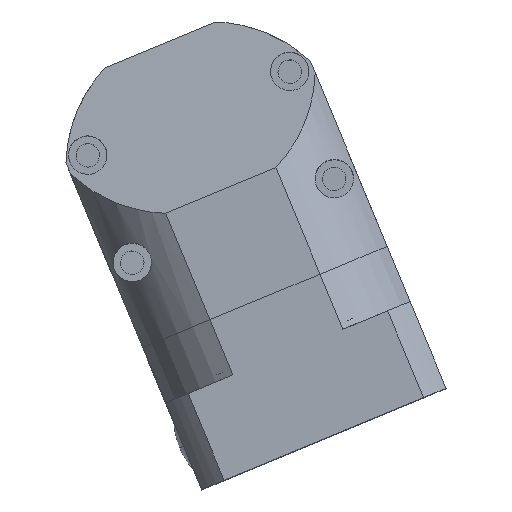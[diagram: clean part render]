
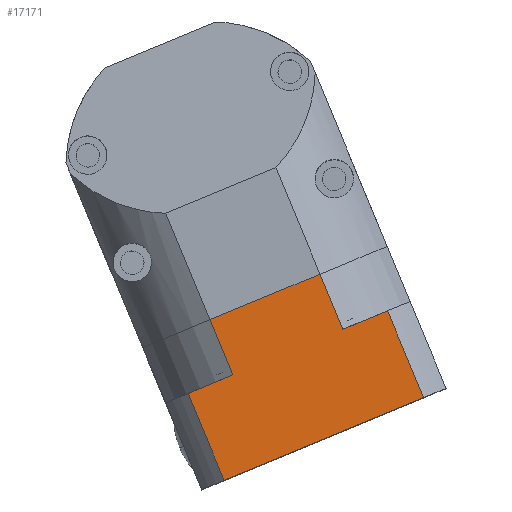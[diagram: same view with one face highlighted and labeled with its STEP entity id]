
A CAD part, top view. The second image highlights one B-rep face of the part: STEP entity #17171.
In plain terms, the highlighted planar face has unit normal (0, 0, 1).
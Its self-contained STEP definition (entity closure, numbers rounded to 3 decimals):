
#14 = VECTOR ( 'NONE', #8898, 1000. ) ;
#180 = CARTESIAN_POINT ( 'NONE',  ( 2.978, -32.443, 125.869 ) ) ;
#227 = VERTEX_POINT ( 'NONE', #14948 ) ;
#242 = ORIENTED_EDGE ( 'NONE', *, *, #10505, .T. ) ;
#454 = CARTESIAN_POINT ( 'NONE',  ( 21.857, -48.431, 125.869 ) ) ;
#948 = VECTOR ( 'NONE', #9926, 1000. ) ;
#951 = ORIENTED_EDGE ( 'NONE', *, *, #9221, .F. ) ;
#1019 = LINE ( 'NONE', #8143, #8429 ) ;
#2317 = FACE_OUTER_BOUND ( 'NONE', #11632, .T. ) ;
#2321 = CARTESIAN_POINT ( 'NONE',  ( -2.384, -19.51, 125.869 ) ) ;
#2886 = ORIENTED_EDGE ( 'NONE', *, *, #9799, .F. ) ;
#3190 = CARTESIAN_POINT ( 'NONE',  ( -22.82, -43.141, 125.869 ) ) ;
#3366 = AXIS2_PLACEMENT_3D ( 'NONE', #12265, #9646, #11038 ) ;
#4193 = CARTESIAN_POINT ( 'NONE',  ( 21.857, -48.431, 125.869 ) ) ;
#4334 = CARTESIAN_POINT ( 'NONE',  ( 13.43, -28.109, 125.869 ) ) ;
#4379 = LINE ( 'NONE', #180, #16528 ) ;
#4721 = ORIENTED_EDGE ( 'NONE', *, *, #6105, .T. ) ;
#4961 = DIRECTION ( 'NONE',  ( -0.924, -0.383, 0. ) ) ;
#5229 = DIRECTION ( 'NONE',  ( -0.924, -0.383, 0. ) ) ;
#5679 = CARTESIAN_POINT ( 'NONE',  ( 21.857, -48.431, 125.869 ) ) ;
#6105 = EDGE_CURVE ( 'NONE', #11438, #6922, #1019, .T. ) ;
#6298 = VECTOR ( 'NONE', #12150, 1000. ) ;
#6922 = VERTEX_POINT ( 'NONE', #12974 ) ;
#7059 = CARTESIAN_POINT ( 'NONE',  ( -24.844, -67.797, 125.869 ) ) ;
#7704 = EDGE_CURVE ( 'NONE', #8425, #15925, #17037, .T. ) ;
#7984 = VERTEX_POINT ( 'NONE', #7059 ) ;
#8028 = PLANE ( 'NONE',  #3366 ) ;
#8143 = CARTESIAN_POINT ( 'NONE',  ( 13.43, -28.109, 125.869 ) ) ;
#8315 = VECTOR ( 'NONE', #4961, 1000. ) ;
#8373 = CARTESIAN_POINT ( 'NONE',  ( -22.82, -43.141, 125.869 ) ) ;
#8425 = VERTEX_POINT ( 'NONE', #5679 ) ;
#8429 = VECTOR ( 'NONE', #5229, 1000. ) ;
#8463 = DIRECTION ( 'NONE',  ( -0.924, -0.383, 0. ) ) ;
#8628 = LINE ( 'NONE', #13053, #18257 ) ;
#8687 = ORIENTED_EDGE ( 'NONE', *, *, #14003, .F. ) ;
#8887 = ORIENTED_EDGE ( 'NONE', *, *, #14509, .T. ) ;
#8898 = DIRECTION ( 'NONE',  ( -0.383, 0.924, 0. ) ) ;
#9221 = EDGE_CURVE ( 'NONE', #7984, #6922, #8628, .T. ) ;
#9636 = VERTEX_POINT ( 'NONE', #10952 ) ;
#9646 = DIRECTION ( 'NONE',  ( 0., 0., -1. ) ) ;
#9799 = EDGE_CURVE ( 'NONE', #8425, #7984, #17697, .T. ) ;
#9926 = DIRECTION ( 'NONE',  ( -0.383, 0.924, 0. ) ) ;
#10204 = CARTESIAN_POINT ( 'NONE',  ( 13.43, -28.109, 125.869 ) ) ;
#10274 = ORIENTED_EDGE ( 'NONE', *, *, #17276, .T. ) ;
#10316 = LINE ( 'NONE', #3190, #14 ) ;
#10505 = EDGE_CURVE ( 'NONE', #9636, #227, #10686, .T. ) ;
#10686 = LINE ( 'NONE', #2321, #8315 ) ;
#10952 = CARTESIAN_POINT ( 'NONE',  ( -2.384, -19.51, 125.869 ) ) ;
#11038 = DIRECTION ( 'NONE',  ( 0.383, -0.924, 0. ) ) ;
#11438 = VERTEX_POINT ( 'NONE', #8373 ) ;
#11632 = EDGE_LOOP ( 'NONE', ( #242, #8687, #4721, #951, #2886, #16098, #8887, #10274 ) ) ;
#12150 = DIRECTION ( 'NONE',  ( -0.924, -0.383, 0. ) ) ;
#12265 = CARTESIAN_POINT ( 'NONE',  ( 2.978, -32.443, 125.869 ) ) ;
#12884 = LINE ( 'NONE', #4334, #15886 ) ;
#12974 = CARTESIAN_POINT ( 'NONE',  ( -33.271, -47.475, 125.869 ) ) ;
#13053 = CARTESIAN_POINT ( 'NONE',  ( -24.844, -67.797, 125.869 ) ) ;
#14003 = EDGE_CURVE ( 'NONE', #11438, #227, #10316, .T. ) ;
#14082 = VERTEX_POINT ( 'NONE', #17982 ) ;
#14142 = DIRECTION ( 'NONE',  ( -0.383, 0.924, 0. ) ) ;
#14509 = EDGE_CURVE ( 'NONE', #15925, #14082, #12884, .T. ) ;
#14948 = CARTESIAN_POINT ( 'NONE',  ( -28.183, -30.208, 125.869 ) ) ;
#15886 = VECTOR ( 'NONE', #8463, 1000. ) ;
#15925 = VERTEX_POINT ( 'NONE', #10204 ) ;
#16036 = DIRECTION ( 'NONE',  ( -0.383, 0.924, 0. ) ) ;
#16098 = ORIENTED_EDGE ( 'NONE', *, *, #7704, .T. ) ;
#16528 = VECTOR ( 'NONE', #14142, 1000. ) ;
#17037 = LINE ( 'NONE', #4193, #948 ) ;
#17171 = ADVANCED_FACE ( 'NONE', ( #2317 ), #8028, .F. ) ;
#17276 = EDGE_CURVE ( 'NONE', #14082, #9636, #4379, .T. ) ;
#17697 = LINE ( 'NONE', #454, #6298 ) ;
#17982 = CARTESIAN_POINT ( 'NONE',  ( 2.978, -32.443, 125.869 ) ) ;
#18257 = VECTOR ( 'NONE', #16036, 1000. ) ;
